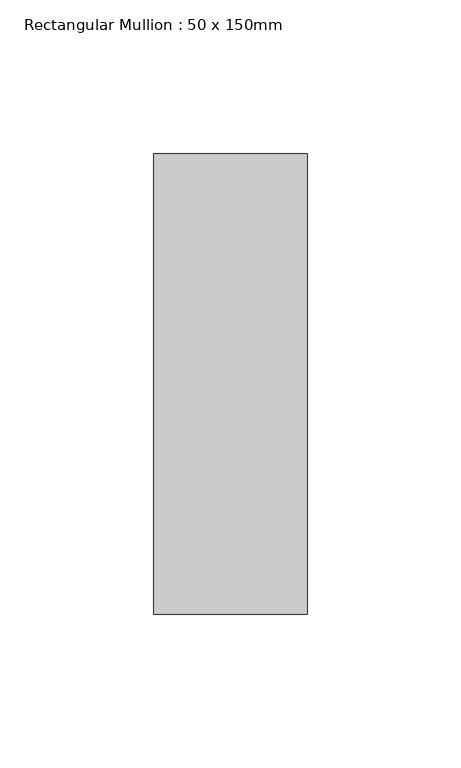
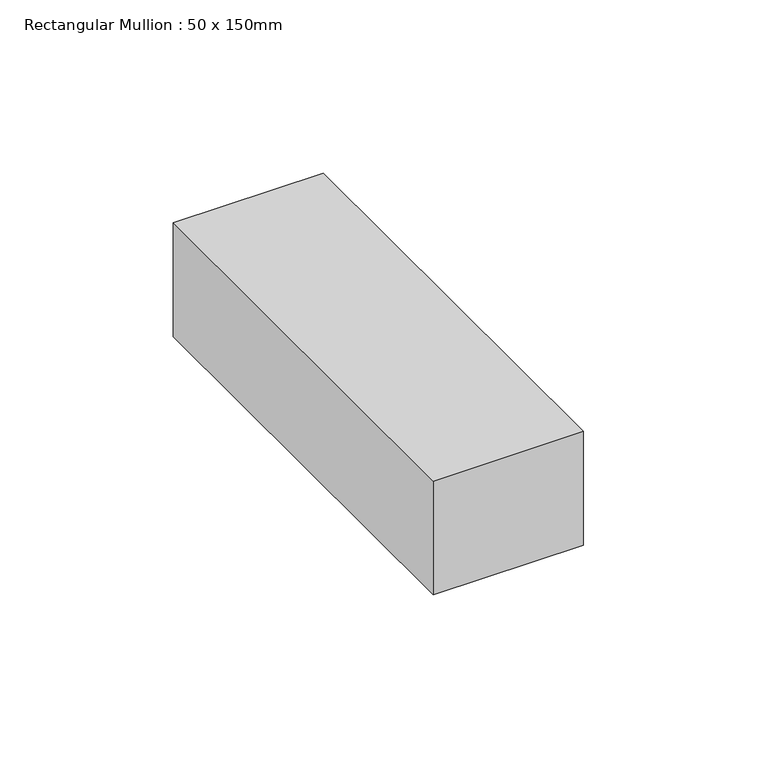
"""IFC4 building model written with IfcOpenShell, lengths in millimetres: member geometry, Rectangular Mullion : 50 x 150mm."""

from ifc_helpers import new_model, si_unit, frame, origin, place, context, project, spatial, polyline, outline, extrude, source, transform, mapped, element, save


def rectangular_mullion_50_x_150mm_89be94bf(model_context):
    return source(origin(), model_context, "Body", "SweptSolid", [
        extrude(outline(polyline([(25.0, 75.0), (25.0, -75.0), (-25.0, -75.0), (-25.0, 75.0), (25.0, 75.0)])), frame((0.0, 0.0, -40.0), z_axis=(0.0, 0.0, 1.0), x_axis=(1.0, 0.0, 0.0)), (0.0, 0.0, 1.0), 40.0),
    ])


if __name__ == "__main__":
    model = new_model("IFC4")
    model_context = context("Model", 3, world=origin())
    ifc_project = project(units=[si_unit("LENGTHUNIT", "METRE", prefix="MILLI")], contexts=[model_context])
    site = spatial("IfcSite", under=ifc_project)
    building = spatial("IfcBuilding", under=site)
    placement = place(None, origin())
    rectangular_mullion_50_x_150mm_shape = rectangular_mullion_50_x_150mm_89be94bf(model_context)
    element("IfcMember", 1, ObjectType="Rectangular Mullion : 50 x 150mm", at=placement, inside=building, context=model_context, shape_type="MappedRepresentation", body=[
        mapped(rectangular_mullion_50_x_150mm_shape, transform((0.0, 0.0, 0.0), x_axis=(1.0, 0.0, 0.0), y_axis=(0.0, 1.0, 0.0), z_axis=(0.0, 0.0, 1.0))),
    ])
    save(model, "model.ifc")
